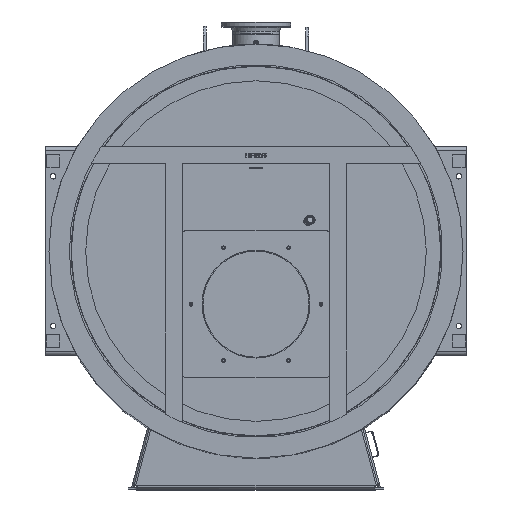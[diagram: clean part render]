
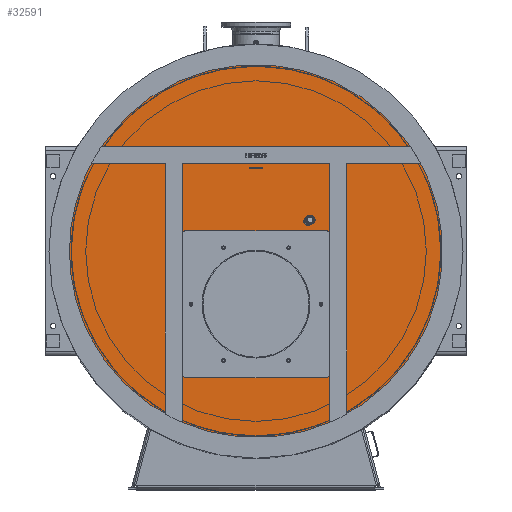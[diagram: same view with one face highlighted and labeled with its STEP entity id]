
A CAD part, top view. The second image highlights one B-rep face of the part: STEP entity #32591.
In plain terms, the highlighted planar face has unit normal (0, 0, 1).
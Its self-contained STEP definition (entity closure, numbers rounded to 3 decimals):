
#32230=CARTESIAN_POINT('',(315.184,154.085,428.));
#32231=VERTEX_POINT('',#32230);
#32238=CARTESIAN_POINT('',(324.761,187.501,428.));
#32239=VERTEX_POINT('',#32238);
#32240=CARTESIAN_POINT('',(315.184,154.085,428.));
#32241=CARTESIAN_POINT('',(336.836,166.586,428.));
#32242=CARTESIAN_POINT('',(324.761,187.501,428.));
#32243=(BOUNDED_CURVE()
B_SPLINE_CURVE(2,(#32240,#32241,#32242),.UNSPECIFIED.,.F.,.F.)
B_SPLINE_CURVE_WITH_KNOTS((3,3),(270.,360.),.UNSPECIFIED.)
CURVE()
GEOMETRIC_REPRESENTATION_ITEM()
RATIONAL_B_SPLINE_CURVE((1.,0.707,1.))
REPRESENTATION_ITEM(''));
#32244=EDGE_CURVE('',#32231,#32239,#32243,.T.);
#32246=CARTESIAN_POINT('',(324.761,187.501,428.));
#32247=CARTESIAN_POINT('',(312.686,208.415,428.));
#32248=CARTESIAN_POINT('',(291.034,195.915,428.));
#32249=CARTESIAN_POINT('',(269.382,183.414,428.));
#32250=CARTESIAN_POINT('',(281.457,162.499,428.));
#32251=CARTESIAN_POINT('',(293.532,141.585,428.));
#32252=CARTESIAN_POINT('',(315.184,154.085,428.));
#32253=(BOUNDED_CURVE()
B_SPLINE_CURVE(2,(#32246,#32247,#32248,#32249,#32250,#32251,#32252),.UNSPECIFIED.,.F.,.F.)
B_SPLINE_CURVE_WITH_KNOTS((3,2,2,3),(0.,90.,180.,270.),.UNSPECIFIED.)
CURVE()
GEOMETRIC_REPRESENTATION_ITEM()
RATIONAL_B_SPLINE_CURVE((1.,0.707,1.,0.707,1.,0.707,1.))
REPRESENTATION_ITEM(''));
#32254=EDGE_CURVE('',#32239,#32231,#32253,.T.);
#32429=CARTESIAN_POINT('',(190.,-155.,428.));
#32430=DIRECTION('',(0.,0.,1.));
#32431=DIRECTION('',(1.,0.,0.));
#32432=AXIS2_PLACEMENT_3D('',#32429,#32430,#32431);
#32433=PLANE('',#32432);
#32434=CARTESIAN_POINT('',(430.,100.,428.));
#32435=VERTEX_POINT('',#32434);
#32436=CARTESIAN_POINT('',(410.,120.,428.));
#32437=VERTEX_POINT('',#32436);
#32438=CARTESIAN_POINT('',(410.,100.,428.));
#32439=DIRECTION('',(0.,0.,1.));
#32440=DIRECTION('',(1.,0.,-0.));
#32441=AXIS2_PLACEMENT_3D('',#32438,#32439,#32440);
#32442=CIRCLE('',#32441,20.);
#32443=EDGE_CURVE('',#32435,#32437,#32442,.T.);
#32444=ORIENTED_EDGE('',*,*,#32443,.F.);
#32445=CARTESIAN_POINT('',(430.,-720.,428.));
#32446=VERTEX_POINT('',#32445);
#32447=CARTESIAN_POINT('',(430.,-720.,428.));
#32448=DIRECTION('',(0.,1.,0.));
#32449=VECTOR('',#32448,820.);
#32450=LINE('',#32447,#32449);
#32451=EDGE_CURVE('',#32446,#32435,#32450,.T.);
#32452=ORIENTED_EDGE('',*,*,#32451,.F.);
#32453=CARTESIAN_POINT('',(410.,-740.,428.));
#32454=VERTEX_POINT('',#32453);
#32455=CARTESIAN_POINT('',(410.,-720.,428.));
#32456=DIRECTION('',(0.,0.,1.));
#32457=DIRECTION('',(1.,0.,-0.));
#32458=AXIS2_PLACEMENT_3D('',#32455,#32456,#32457);
#32459=CIRCLE('',#32458,20.);
#32460=EDGE_CURVE('',#32454,#32446,#32459,.T.);
#32461=ORIENTED_EDGE('',*,*,#32460,.F.);
#32462=CARTESIAN_POINT('',(-410.,-740.,428.));
#32463=VERTEX_POINT('',#32462);
#32464=CARTESIAN_POINT('',(-410.,-740.,428.));
#32465=DIRECTION('',(1.,0.,-0.));
#32466=VECTOR('',#32465,820.);
#32467=LINE('',#32464,#32466);
#32468=EDGE_CURVE('',#32463,#32454,#32467,.T.);
#32469=ORIENTED_EDGE('',*,*,#32468,.F.);
#32470=CARTESIAN_POINT('',(-430.,-720.,428.));
#32471=VERTEX_POINT('',#32470);
#32472=CARTESIAN_POINT('',(-410.,-720.,428.));
#32473=DIRECTION('',(0.,0.,1.));
#32474=DIRECTION('',(1.,0.,-0.));
#32475=AXIS2_PLACEMENT_3D('',#32472,#32473,#32474);
#32476=CIRCLE('',#32475,20.);
#32477=EDGE_CURVE('',#32471,#32463,#32476,.T.);
#32478=ORIENTED_EDGE('',*,*,#32477,.F.);
#32479=CARTESIAN_POINT('',(-430.,100.,428.));
#32480=VERTEX_POINT('',#32479);
#32481=CARTESIAN_POINT('',(-430.,-720.,428.));
#32482=DIRECTION('',(0.,1.,0.));
#32483=VECTOR('',#32482,820.);
#32484=LINE('',#32481,#32483);
#32485=EDGE_CURVE('',#32471,#32480,#32484,.T.);
#32486=ORIENTED_EDGE('',*,*,#32485,.T.);
#32487=CARTESIAN_POINT('',(-410.,120.,428.));
#32488=VERTEX_POINT('',#32487);
#32489=CARTESIAN_POINT('',(-410.,100.,428.));
#32490=DIRECTION('',(0.,0.,1.));
#32491=DIRECTION('',(1.,0.,-0.));
#32492=AXIS2_PLACEMENT_3D('',#32489,#32490,#32491);
#32493=CIRCLE('',#32492,20.);
#32494=EDGE_CURVE('',#32488,#32480,#32493,.T.);
#32495=ORIENTED_EDGE('',*,*,#32494,.F.);
#32496=CARTESIAN_POINT('',(410.,120.,428.));
#32497=DIRECTION('',(-1.,0.,0.));
#32498=VECTOR('',#32497,820.);
#32499=LINE('',#32496,#32498);
#32500=EDGE_CURVE('',#32437,#32488,#32499,.T.);
#32501=ORIENTED_EDGE('',*,*,#32500,.F.);
#32502=EDGE_LOOP('',(#32444,#32452,#32461,#32469,#32478,#32486,#32495,#32501));
#32503=FACE_BOUND('',#32502,.T.);
#32504=ORIENTED_EDGE('',*,*,#32244,.F.);
#32505=ORIENTED_EDGE('',*,*,#32254,.F.);
#32506=EDGE_LOOP('',(#32504,#32505));
#32507=FACE_BOUND('',#32506,.T.);
#32508=CARTESIAN_POINT('',(880.405,642.64,428.));
#32509=VERTEX_POINT('',#32508);
#32510=CARTESIAN_POINT('',(-880.405,642.64,428.));
#32511=VERTEX_POINT('',#32510);
#32512=CARTESIAN_POINT('',(0.,0.,428.));
#32513=DIRECTION('',(-0.,-0.,1.));
#32514=DIRECTION('',(-1.,0.,0.));
#32515=AXIS2_PLACEMENT_3D('',#32512,#32513,#32514);
#32516=CIRCLE('',#32515,1090.);
#32517=EDGE_CURVE('',#32509,#32511,#32516,.T.);
#32518=ORIENTED_EDGE('',*,*,#32517,.T.);
#32519=CARTESIAN_POINT('',(-1007.774,415.32,428.));
#32520=VERTEX_POINT('',#32519);
#32521=CARTESIAN_POINT('',(38.125,-21.362,428.));
#32522=DIRECTION('',(-0.,-0.,1.));
#32523=DIRECTION('',(-1.,0.,0.));
#32524=AXIS2_PLACEMENT_3D('',#32521,#32522,#32523);
#32525=CIRCLE('',#32524,1133.4);
#32526=EDGE_CURVE('',#32511,#32520,#32525,.T.);
#32527=ORIENTED_EDGE('',*,*,#32526,.T.);
#32528=CARTESIAN_POINT('',(-1090.,-0.,428.));
#32529=VERTEX_POINT('',#32528);
#32530=CARTESIAN_POINT('',(0.,0.,428.));
#32531=DIRECTION('',(-0.,-0.,1.));
#32532=DIRECTION('',(-1.,0.,0.));
#32533=AXIS2_PLACEMENT_3D('',#32530,#32531,#32532);
#32534=CIRCLE('',#32533,1090.);
#32535=EDGE_CURVE('',#32520,#32529,#32534,.T.);
#32536=ORIENTED_EDGE('',*,*,#32535,.T.);
#32537=CARTESIAN_POINT('',(-1007.774,-415.32,428.));
#32538=VERTEX_POINT('',#32537);
#32539=CARTESIAN_POINT('',(0.,0.,428.));
#32540=DIRECTION('',(-0.,-0.,1.));
#32541=DIRECTION('',(-1.,0.,0.));
#32542=AXIS2_PLACEMENT_3D('',#32539,#32540,#32541);
#32543=CIRCLE('',#32542,1090.);
#32544=EDGE_CURVE('',#32529,#32538,#32543,.T.);
#32545=ORIENTED_EDGE('',*,*,#32544,.T.);
#32546=CARTESIAN_POINT('',(-880.405,-642.64,428.));
#32547=VERTEX_POINT('',#32546);
#32548=CARTESIAN_POINT('',(38.125,21.362,428.));
#32549=DIRECTION('',(0.,0.,-1.));
#32550=DIRECTION('',(-1.,0.,0.));
#32551=AXIS2_PLACEMENT_3D('',#32548,#32549,#32550);
#32552=CIRCLE('',#32551,1133.4);
#32553=EDGE_CURVE('',#32547,#32538,#32552,.T.);
#32554=ORIENTED_EDGE('',*,*,#32553,.F.);
#32555=CARTESIAN_POINT('',(880.405,-642.64,428.));
#32556=VERTEX_POINT('',#32555);
#32557=CARTESIAN_POINT('',(0.,0.,428.));
#32558=DIRECTION('',(-0.,-0.,1.));
#32559=DIRECTION('',(-1.,0.,0.));
#32560=AXIS2_PLACEMENT_3D('',#32557,#32558,#32559);
#32561=CIRCLE('',#32560,1090.);
#32562=EDGE_CURVE('',#32547,#32556,#32561,.T.);
#32563=ORIENTED_EDGE('',*,*,#32562,.T.);
#32564=CARTESIAN_POINT('',(1007.774,-415.32,428.));
#32565=VERTEX_POINT('',#32564);
#32566=CARTESIAN_POINT('',(-38.125,21.362,428.));
#32567=DIRECTION('',(0.,0.,-1.));
#32568=DIRECTION('',(-1.,0.,0.));
#32569=AXIS2_PLACEMENT_3D('',#32566,#32567,#32568);
#32570=CIRCLE('',#32569,1133.4);
#32571=EDGE_CURVE('',#32565,#32556,#32570,.T.);
#32572=ORIENTED_EDGE('',*,*,#32571,.F.);
#32573=CARTESIAN_POINT('',(1007.774,415.32,428.));
#32574=VERTEX_POINT('',#32573);
#32575=CARTESIAN_POINT('',(0.,0.,428.));
#32576=DIRECTION('',(-0.,-0.,1.));
#32577=DIRECTION('',(-1.,0.,0.));
#32578=AXIS2_PLACEMENT_3D('',#32575,#32576,#32577);
#32579=CIRCLE('',#32578,1090.);
#32580=EDGE_CURVE('',#32565,#32574,#32579,.T.);
#32581=ORIENTED_EDGE('',*,*,#32580,.T.);
#32582=CARTESIAN_POINT('',(-38.125,-21.362,428.));
#32583=DIRECTION('',(0.,0.,-1.));
#32584=DIRECTION('',(-1.,0.,0.));
#32585=AXIS2_PLACEMENT_3D('',#32582,#32583,#32584);
#32586=CIRCLE('',#32585,1133.4);
#32587=EDGE_CURVE('',#32509,#32574,#32586,.T.);
#32588=ORIENTED_EDGE('',*,*,#32587,.F.);
#32589=EDGE_LOOP('',(#32518,#32527,#32536,#32545,#32554,#32563,#32572,#32581,#32588));
#32590=FACE_BOUND('',#32589,.T.);
#32591=ADVANCED_FACE('',(#32503,#32507,#32590),#32433,.T.);
